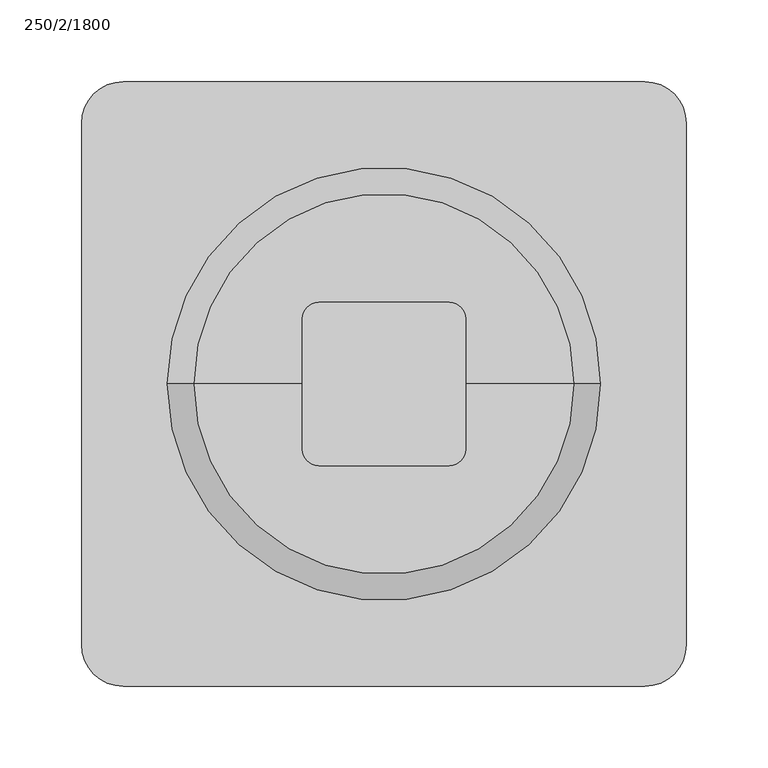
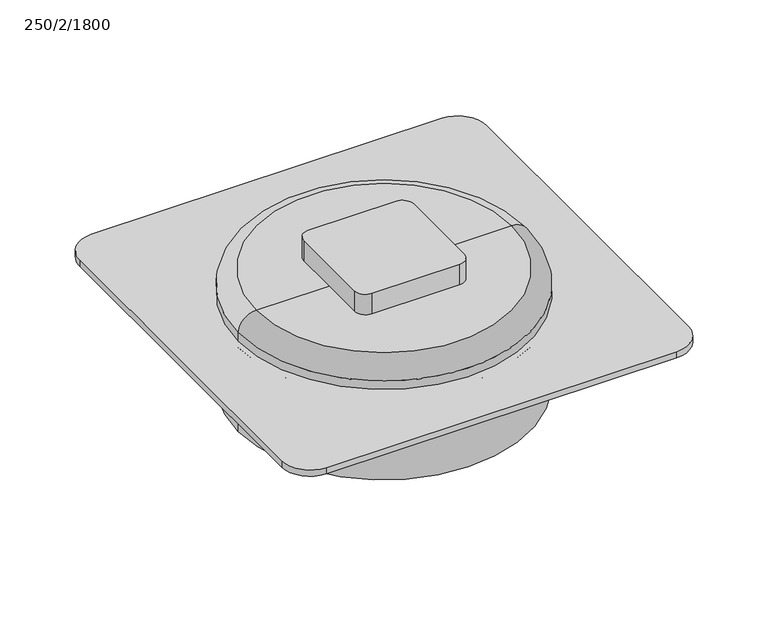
"""IFC4 building model written with IfcOpenShell, lengths in millimetres: unitary equipment geometry, VE-Wentylator-ParaForma-Harmann-SHARK-Wywiewny : 250/2/1800."""

from ifc_helpers import new_model, si_unit, point, frame, frame_2d, origin, origin_with_axes, origin_2d, place, context, project, spatial, polyline, circle_curve, ellipse_curve, trimmed, segment, composite_curve, outline, extrude, source, transform, mapped, element, save
from ifc_brep_helpers import plane_surface, cylinder_surface, revolved_surface, advanced_brep


def unitary_equipment_250_2_1800_beef494e(model_context):
    return source(origin(), model_context, "Body", "SolidModel", [
        advanced_brep(
        [(132.5, 0.0, 6.0), (-132.5, 0.0, 6.0), (0.0, 0.0, 6.0), (132.5, 0.0, 14.0), (-132.5, 0.0, 14.0), (116.5, 0.0, 30.0), (-116.5, 0.0, 30.0), (0.0, 0.0, 30.0)],
        [
            (0, 1, circle_curve(frame((0.0, 0.0, 6.0), z_axis=(0.0, 0.0, -1.0), x_axis=(-1.0000000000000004, 0.0, 0.0)), 132.5)),
            (1, 2),
            (2, 0),
            (1, 0, circle_curve(frame((0.0, 0.0, 6.0), z_axis=(0.0, 0.0, -1.0), x_axis=(-1.0000000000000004, 0.0, 0.0)), 132.5)),
            (3, 4, circle_curve(frame((0.0, 0.0, 14.0), z_axis=(0.0, 0.0, -1.0), x_axis=(-1.0000000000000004, 0.0, 0.0)), 132.5)),
            (4, 1),
            (0, 3),
            (4, 3, circle_curve(frame((0.0, 0.0, 14.0), z_axis=(0.0, 0.0, -1.0), x_axis=(-1.0000000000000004, 0.0, 0.0)), 132.5)),
            (5, 6, circle_curve(frame((0.0, 0.0, 30.0), z_axis=(0.0, 0.0, -1.0), x_axis=(-1.0000000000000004, 0.0, 0.0)), 116.5)),
            (6, 4, circle_curve(frame((-116.5, 0.0, 14.0), z_axis=(0.0, -1.0000000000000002, 0.0), x_axis=(0.0, 0.0, -1.0000000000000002)), 16.0)),
            (3, 5, circle_curve(frame((116.5, 0.0, 14.0), z_axis=(0.0, -1.0000000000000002, 0.0), x_axis=(0.0, 0.0, -1.0000000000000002)), 16.0)),
            (6, 5, circle_curve(frame((0.0, 0.0, 30.0), z_axis=(0.0, 0.0, -1.0), x_axis=(-1.0000000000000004, 0.0, 0.0)), 116.5)),
            (7, 6),
            (5, 7),
        ],
        [
            plane_surface(frame((0.0, 0.0, 6.0), z_axis=(0.0, 0.0, -1.0), x_axis=(-1.0, 0.0, 0.0))),
            cylinder_surface(frame((0.0, 0.0, 30.0), z_axis=(0.0, 0.0, 1.0000000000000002), x_axis=(-1.0000000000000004, 0.0, 0.0)), 132.5),
            revolved_surface(trimmed(ellipse_curve(frame((-116.5, 0.0, 14.0), z_axis=(0.0, 1.0000000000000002, 0.0), x_axis=(0.0, 0.0, -1.0000000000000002)), 16.0, 16.0), [point((-132.5, 0.0, 14.0))], [point((-116.5, 0.0, 30.0))], True, "CARTESIAN"), (0.0, 0.0, 30.0), (0.0, 0.0, 1.0000000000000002)),
            plane_surface(frame((0.0, 0.0, 30.0), z_axis=(0.0, 0.0, 1.0), x_axis=(-1.0, 0.0, 0.0))),
        ],
        [
            (0, [[1, 2, 3]]),
            (0, [[4, -3, -2]]),
            (1, [[5, 6, -1, 7]]),
            (1, [[8, -7, -4, -6]]),
            (2, [[9, 10, -5, 11]]),
            (2, [[12, -11, -8, -10]]),
            (3, [[13, -9, 14]]),
            (3, [[-14, -12, -13]]),
        ],
    ),
        extrude(outline(composite_curve([segment(trimmed(circle_curve(origin_2d(), 50.0), [point((-50.0, 0.0))], [point((50.0, 0.0))], False, "CARTESIAN"), True, "CONTINUOUS"), segment(trimmed(circle_curve(origin_2d(), 50.0), [point((50.0, 0.0))], [point((-50.0, 0.0))], False, "CARTESIAN"), True, "CONTINUOUS")], self_intersect=False)), frame((0.0, 0.0, -81.0), z_axis=(0.0, 0.0, 1.0), x_axis=(1.0, 0.0, 0.0)), (0.0, 0.0, 1.0), 10.0),
        advanced_brep(
        [(0.0, 0.0, 0.0), (-133.5, 0.0, 0.0), (133.5, 0.0, 0.0), (132.5, 0.0, -81.0), (-132.5, 0.0, -81.0), (0.0, 0.0, -81.0), (132.5, 0.0, -1.0), (-132.5, 0.0, -1.0)],
        [
            (0, 1),
            (1, 2, circle_curve(frame((0.0, 0.0, 0.0), z_axis=(0.0, 0.0, 1.0), x_axis=(-1.0000000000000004, 0.0, 0.0)), 133.5)),
            (2, 0),
            (2, 1, circle_curve(frame((0.0, 0.0, 0.0), z_axis=(0.0, 0.0, 1.0), x_axis=(-1.0000000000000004, 0.0, 0.0)), 133.5)),
            (3, 4, circle_curve(frame((0.0, 0.0, -81.0), z_axis=(0.0, 0.0, -1.0), x_axis=(-1.0000000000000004, 0.0, 0.0)), 132.5)),
            (4, 5),
            (5, 3),
            (4, 3, circle_curve(frame((0.0, 0.0, -81.0), z_axis=(0.0, 0.0, -1.0), x_axis=(-1.0000000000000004, 0.0, 0.0)), 132.5)),
            (6, 7, circle_curve(frame((0.0, 0.0, -1.0), z_axis=(0.0, 0.0, -1.0), x_axis=(-1.0000000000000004, 0.0, 0.0)), 132.5)),
            (7, 4),
            (3, 6),
            (7, 6, circle_curve(frame((0.0, 0.0, -1.0), z_axis=(0.0, 0.0, -1.0), x_axis=(-1.0000000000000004, 0.0, 0.0)), 132.5)),
            (1, 7, circle_curve(frame((-133.5, 0.0, -1.0), z_axis=(0.0, 1.0000000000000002, 0.0), x_axis=(0.0, 0.0, -1.0000000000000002)), 1.0)),
            (6, 2, circle_curve(frame((133.5, 0.0, -1.0), z_axis=(0.0, 1.0000000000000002, 0.0), x_axis=(0.0, 0.0, -1.0000000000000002)), 1.0)),
        ],
        [
            plane_surface(frame((0.0, 0.0, 0.0), z_axis=(0.0, 0.0, 1.0), x_axis=(-1.0, 0.0, 0.0))),
            plane_surface(frame((0.0, 0.0, -81.0), z_axis=(0.0, 0.0, -1.0), x_axis=(-1.0, 0.0, 0.0))),
            cylinder_surface(frame((0.0, 0.0, 0.0), z_axis=(0.0, 0.0, 1.0000000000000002), x_axis=(-1.0000000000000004, 0.0, 0.0)), 132.5),
            revolved_surface(trimmed(ellipse_curve(frame((-133.5, 0.0, -1.0), z_axis=(0.0, -1.0000000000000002, 0.0), x_axis=(0.0, 0.0, -1.0000000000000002)), 1.0, 1.0), [point((-132.5, 0.0, -1.0))], [point((-133.5, 0.0, 0.0))], True, "CARTESIAN"), (0.0, 0.0, 0.0), (0.0, 0.0, 1.0000000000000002)),
        ],
        [
            (0, [[1, 2, 3]]),
            (0, [[-3, 4, -1]]),
            (1, [[5, 6, 7]]),
            (1, [[8, -7, -6]]),
            (2, [[9, 10, -5, 11]]),
            (2, [[12, -11, -8, -10]]),
            (3, [[-2, 13, -9, 14]]),
            (3, [[-4, -14, -12, -13]]),
        ],
    ),
        extrude(outline(composite_curve([segment(polyline([(40.0, -50.0), (-40.0, -50.0)]), True, "CONTINUOUS"), segment(trimmed(circle_curve(frame_2d((-40.0, -40.0)), 10.0), [point((-40.0, -50.0))], [point((-50.0, -40.0))], False, "CARTESIAN"), True, "CONTINUOUS"), segment(polyline([(-50.0, -40.0), (-50.0, 40.0)]), True, "CONTINUOUS"), segment(trimmed(circle_curve(frame_2d((-40.0, 40.0)), 10.0), [point((-50.0, 40.0))], [point((-40.0, 50.0))], False, "CARTESIAN"), True, "CONTINUOUS"), segment(polyline([(-40.0, 50.0), (40.0, 50.0)]), True, "CONTINUOUS"), segment(trimmed(circle_curve(frame_2d((40.0, 40.0)), 10.0), [point((40.0, 50.0))], [point((50.0, 40.0))], False, "CARTESIAN"), True, "CONTINUOUS"), segment(polyline([(50.0, 40.0), (50.0, -40.0)]), True, "CONTINUOUS"), segment(trimmed(circle_curve(frame_2d((40.0, -40.0)), 10.0), [point((50.0, -40.0))], [point((40.0, -50.0))], False, "CARTESIAN"), True, "CONTINUOUS")], self_intersect=False)), frame((0.0, 0.0, 30.0), z_axis=(0.0, 0.0, 1.0), x_axis=(1.0, 0.0, 0.0)), (0.0, 0.0, 1.0), 20.0),
        extrude(outline(composite_curve([segment(polyline([(159.5, -185.0), (-159.5, -185.0)]), True, "CONTINUOUS"), segment(trimmed(circle_curve(frame_2d((-159.5, -159.5)), 25.5), [point((-159.5, -185.0))], [point((-185.0, -159.5))], False, "CARTESIAN"), True, "CONTINUOUS"), segment(polyline([(-185.0, -159.5), (-185.0, 159.5)]), True, "CONTINUOUS"), segment(trimmed(circle_curve(frame_2d((-159.5, 159.5)), 25.5), [point((-185.0, 159.5))], [point((-159.5, 185.0))], False, "CARTESIAN"), True, "CONTINUOUS"), segment(polyline([(-159.5, 185.0), (159.5, 185.0)]), True, "CONTINUOUS"), segment(trimmed(circle_curve(frame_2d((159.5, 159.5)), 25.5), [point((159.5, 185.0))], [point((185.0, 159.5))], False, "CARTESIAN"), True, "CONTINUOUS"), segment(polyline([(185.0, 159.5), (185.0, -159.5)]), True, "CONTINUOUS"), segment(trimmed(circle_curve(frame_2d((159.5, -159.5)), 25.5), [point((185.0, -159.5))], [point((159.5, -185.0))], False, "CARTESIAN"), True, "CONTINUOUS")], self_intersect=False)), origin_with_axes(), (0.0, 0.0, 1.0), 6.0),
    ])


if __name__ == "__main__":
    model = new_model("IFC4")
    model_context = context("Model", 3, world=origin())
    ifc_project = project(units=[si_unit("LENGTHUNIT", "METRE", prefix="MILLI")], contexts=[model_context])
    site = spatial("IfcSite", under=ifc_project)
    building = spatial("IfcBuilding", under=site)
    placement = place(None, origin())
    unitary_equipment_250_2_1800_shape = unitary_equipment_250_2_1800_beef494e(model_context)
    element("IfcUnitaryEquipment", 1, ObjectType="VE-Wentylator-ParaForma-Harmann-SHARK-Wywiewny : 250/2/1800", at=placement, inside=building, context=model_context, shape_type="MappedRepresentation", body=[
        mapped(unitary_equipment_250_2_1800_shape, transform((0.0, 0.0, 0.0), x_axis=(1.0, 0.0, 0.0), y_axis=(0.0, 1.0, 0.0), z_axis=(0.0, 0.0, 1.0))),
    ])
    save(model, "model.ifc")
